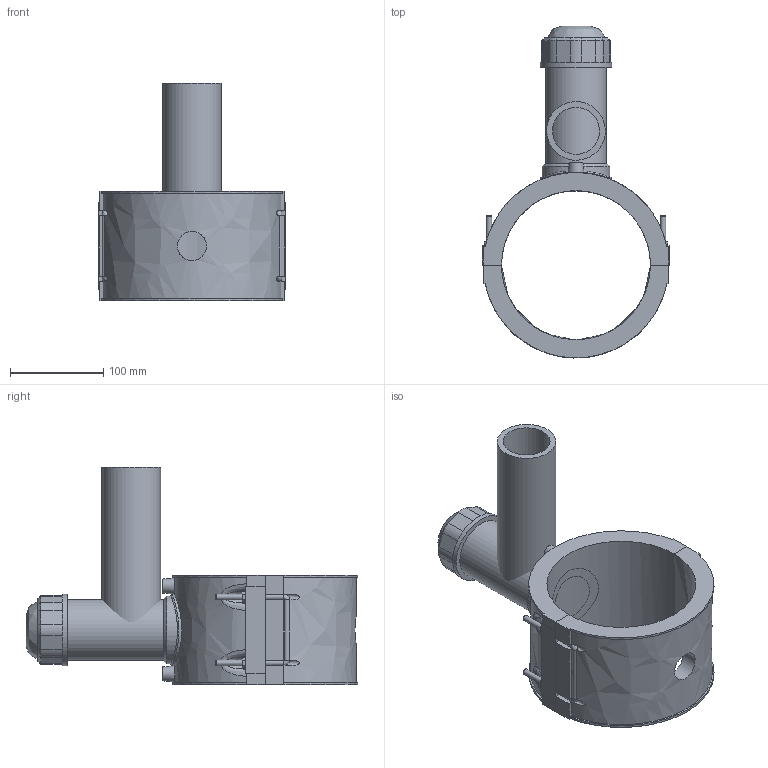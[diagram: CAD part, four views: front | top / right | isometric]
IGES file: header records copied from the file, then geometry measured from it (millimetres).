
Global section: file name: 4963P4160063; native system: Autodesk Inventor 2019; preprocessor: unknown; author: KIM; date: 20220317.113032; units: millimetre
Bounding box: 201 x 356.52 x 234 mm (x, y, z)
Volume: 1727319.4 mm3; surface area: 310697.2 mm2
Topology: 3 solids, 3 shells, 194 faces, 499 edges, 329 vertices
Faces by surface type: bspline 194
